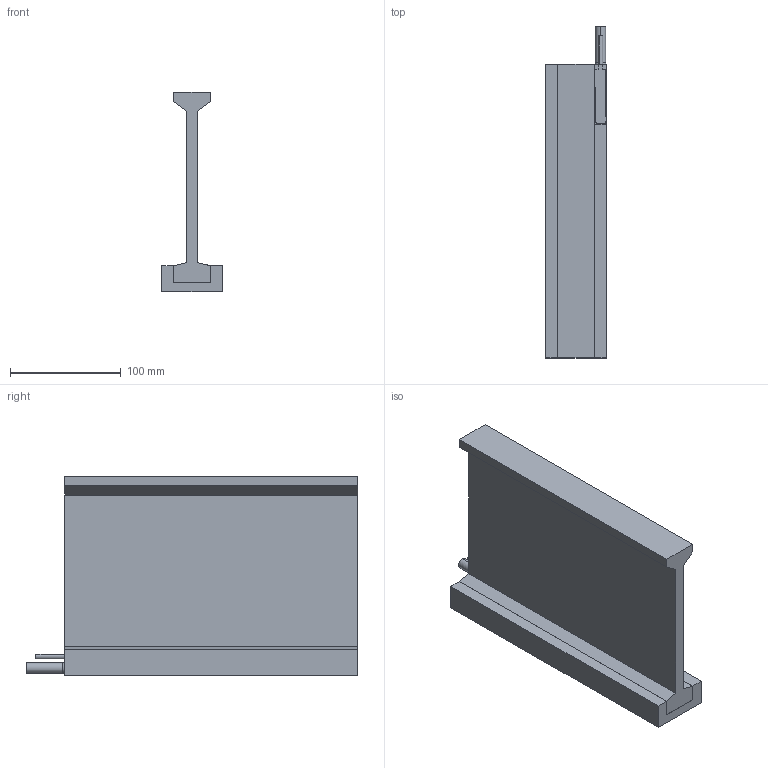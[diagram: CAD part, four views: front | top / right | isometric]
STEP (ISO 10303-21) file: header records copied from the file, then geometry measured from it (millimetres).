
FILE_DESCRIPTION (( 'STEP AP214' ), '1' );
FILE_NAME ('DX140F-C4.STEP', '2021-07-16T04:29:25', ( '' ), ( '' ), 'SwSTEP 2.0', 'SolidWorks 2020', '' );
FILE_SCHEMA (( 'AUTOMOTIVE_DESIGN' ));
Length unit declared in the file: millimetre
Products named in the file (6): HEX SHCS M3x0.5x12(S.S)_B18.3.1M - 3 x 0.5 x 12 Hex SHCS -- 12CHX; DX140F-C4; TIM-PC 8850FT-LV (DX140F)_C4; DX140FH-X.X-ZZ-00 (CUSTOMER); CBL_PWR_D10; DX140FCX01_C4 (CUSTOMER)
Assembly tree (6 placements, depth 2):
  DX140F-C4
    TIM-PC 8850FT-LV (DX140F)_C4
    DX140FCX01_C4 (CUSTOMER)
    HEX SHCS M3x0.5x12(S.S)_B18.3.1M - 3 x 0.5 x 12 Hex SHCS -- 12CHX  x2
    CBL_PWR_D10
    DX140FH-X.X-ZZ-00 (CUSTOMER)
Bounding box: 55 x 300 x 180.6 mm (x, y, z)
Volume: 822105.3 mm3; surface area: 183279.8 mm2
Topology: 8 solids, 8 shells, 229 faces, 557 edges, 335 vertices
Faces by surface type: plane 116, cylinder 69, cone 38, torus 6
Entity records: 6169 total; most frequent: DIRECTION 1041, CARTESIAN_POINT 984, ORIENTED_EDGE 942, EDGE_CURVE 471, AXIS2_PLACEMENT_3D 359, VECTOR 323, LINE 323, VERTEX_POINT 302
